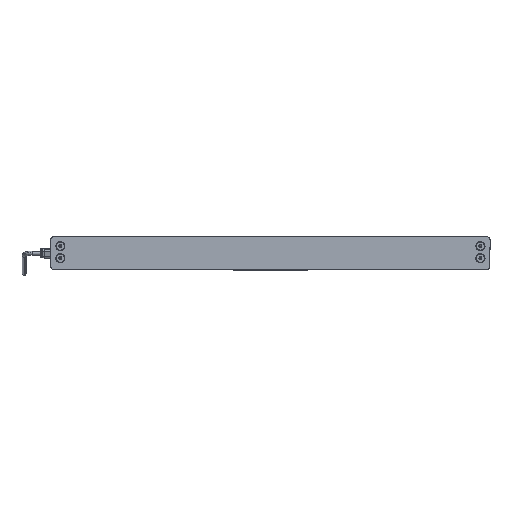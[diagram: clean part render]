
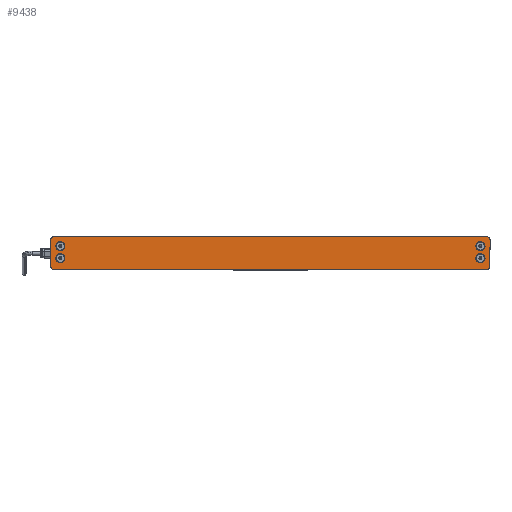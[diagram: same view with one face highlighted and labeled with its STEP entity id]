
A CAD part, left-side view. The second image highlights one B-rep face of the part: STEP entity #9438.
In plain terms, the highlighted planar face has unit normal (-1, 0, 0) as drawn and (0, 0, -1) by its records, which use the part's own axes.
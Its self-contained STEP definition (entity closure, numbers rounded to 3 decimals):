
#26 = FACE_OUTER_BOUND ( 'NONE', #8841, .T. ) ;
#54 = CARTESIAN_POINT ( 'NONE',  ( -268., -16., 0. ) ) ;
#290 = CARTESIAN_POINT ( 'NONE',  ( -264., 16., 0. ) ) ;
#333 = EDGE_CURVE ( 'NONE', #6936, #10233, #3456, .T. ) ;
#748 = DIRECTION ( 'NONE',  ( -1., 0., 0. ) ) ;
#1165 = EDGE_CURVE ( 'NONE', #11627, #17111, #24199, .T. ) ;
#1196 = CARTESIAN_POINT ( 'NONE',  ( -261.9, 8.5, 0. ) ) ;
#1259 = DIRECTION ( 'NONE',  ( -1., 0., 0. ) ) ;
#1609 = PLANE ( 'NONE',  #18530 ) ;
#1827 = VECTOR ( 'NONE', #11203, 1000. ) ;
#1895 = CARTESIAN_POINT ( 'NONE',  ( -250.7, 8.5, 0. ) ) ;
#2000 = FACE_BOUND ( 'NONE', #13365, .T. ) ;
#2031 = DIRECTION ( 'NONE',  ( -1., 0., 0. ) ) ;
#2341 = CARTESIAN_POINT ( 'NONE',  ( 264., 20., 0. ) ) ;
#2904 = CARTESIAN_POINT ( 'NONE',  ( 256.3, 8.5, 0. ) ) ;
#3022 = CIRCLE ( 'NONE', #19816, 5.6 ) ;
#3066 = EDGE_CURVE ( 'NONE', #23786, #8091, #14778, .T. ) ;
#3456 = CIRCLE ( 'NONE', #23980, 4. ) ;
#3674 = VERTEX_POINT ( 'NONE', #22330 ) ;
#3681 = EDGE_LOOP ( 'NONE', ( #19167, #22373 ) ) ;
#3752 = DIRECTION ( 'NONE',  ( 0., 0., -1. ) ) ;
#4589 = LINE ( 'NONE', #8412, #23111 ) ;
#4752 = EDGE_CURVE ( 'NONE', #12329, #17508, #9784, .T. ) ;
#4782 = DIRECTION ( 'NONE',  ( 0., 0., 1. ) ) ;
#4924 = AXIS2_PLACEMENT_3D ( 'NONE', #25531, #3752, #11911 ) ;
#5209 = EDGE_CURVE ( 'NONE', #9563, #25636, #10195, .T. ) ;
#5557 = AXIS2_PLACEMENT_3D ( 'NONE', #19387, #7411, #11644 ) ;
#5597 = EDGE_CURVE ( 'NONE', #17508, #12329, #22420, .T. ) ;
#5676 = FACE_BOUND ( 'NONE', #20257, .T. ) ;
#5909 = DIRECTION ( 'NONE',  ( -1., 0., 0. ) ) ;
#6023 = EDGE_CURVE ( 'NONE', #18768, #25149, #19123, .T. ) ;
#6090 = CARTESIAN_POINT ( 'NONE',  ( -264., 20., 0. ) ) ;
#6631 = EDGE_CURVE ( 'NONE', #25636, #25298, #16169, .T. ) ;
#6833 = DIRECTION ( 'NONE',  ( 0., 0., 1. ) ) ;
#6936 = VERTEX_POINT ( 'NONE', #9962 ) ;
#7193 = CIRCLE ( 'NONE', #25209, 4. ) ;
#7382 = LINE ( 'NONE', #23519, #1827 ) ;
#7411 = DIRECTION ( 'NONE',  ( 0., 0., -1. ) ) ;
#7544 = CARTESIAN_POINT ( 'NONE',  ( 264., -16., 0. ) ) ;
#7782 = ORIENTED_EDGE ( 'NONE', *, *, #15471, .F. ) ;
#7874 = CARTESIAN_POINT ( 'NONE',  ( 256.3, -6.3, 0. ) ) ;
#7939 = LINE ( 'NONE', #20155, #12141 ) ;
#8091 = VERTEX_POINT ( 'NONE', #22754 ) ;
#8355 = VERTEX_POINT ( 'NONE', #54 ) ;
#8412 = CARTESIAN_POINT ( 'NONE',  ( -268., -16., 0. ) ) ;
#8682 = DIRECTION ( 'NONE',  ( 0., -1., 0. ) ) ;
#8841 = EDGE_LOOP ( 'NONE', ( #9600, #13833, #23577, #7782, #17667, #12486, #20181, #19709 ) ) ;
#8962 = DIRECTION ( 'NONE',  ( -1., 0., 0. ) ) ;
#9438 = ADVANCED_FACE ( 'NONE', ( #23774, #23647, #5676, #2000, #26 ), #1609, .T. ) ;
#9538 = EDGE_CURVE ( 'NONE', #18053, #8355, #4589, .T. ) ;
#9563 = VERTEX_POINT ( 'NONE', #20502 ) ;
#9569 = ORIENTED_EDGE ( 'NONE', *, *, #1165, .F. ) ;
#9600 = ORIENTED_EDGE ( 'NONE', *, *, #5209, .F. ) ;
#9633 = EDGE_CURVE ( 'NONE', #25298, #18053, #7193, .T. ) ;
#9784 = CIRCLE ( 'NONE', #5557, 5.6 ) ;
#9962 = CARTESIAN_POINT ( 'NONE',  ( 264., -20., 0. ) ) ;
#10014 = DIRECTION ( 'NONE',  ( 0., 0., -1. ) ) ;
#10022 = CIRCLE ( 'NONE', #15039, 5.6 ) ;
#10119 = CARTESIAN_POINT ( 'NONE',  ( -256.3, -6.3, 0. ) ) ;
#10195 = CIRCLE ( 'NONE', #19431, 4. ) ;
#10233 = VERTEX_POINT ( 'NONE', #17824 ) ;
#10332 = DIRECTION ( 'NONE',  ( 0., 0., -1. ) ) ;
#10464 = EDGE_CURVE ( 'NONE', #8355, #3674, #23149, .T. ) ;
#10518 = DIRECTION ( 'NONE',  ( -1., 0., 0. ) ) ;
#10732 = CARTESIAN_POINT ( 'NONE',  ( -256.3, -6.3, 0. ) ) ;
#10749 = EDGE_CURVE ( 'NONE', #10233, #9563, #7382, .T. ) ;
#10930 = DIRECTION ( 'NONE',  ( 0., 0., -1. ) ) ;
#11000 = AXIS2_PLACEMENT_3D ( 'NONE', #10119, #24648, #16175 ) ;
#11203 = DIRECTION ( 'NONE',  ( 0., 1., 0. ) ) ;
#11299 = VECTOR ( 'NONE', #14190, 1000. ) ;
#11627 = VERTEX_POINT ( 'NONE', #18874 ) ;
#11644 = DIRECTION ( 'NONE',  ( -1., 0., 0. ) ) ;
#11911 = DIRECTION ( 'NONE',  ( -1., 0., 0. ) ) ;
#12141 = VECTOR ( 'NONE', #22102, 1000. ) ;
#12278 = ORIENTED_EDGE ( 'NONE', *, *, #23934, .F. ) ;
#12329 = VERTEX_POINT ( 'NONE', #19439 ) ;
#12486 = ORIENTED_EDGE ( 'NONE', *, *, #9538, .F. ) ;
#13222 = CARTESIAN_POINT ( 'NONE',  ( -264., -16., 0. ) ) ;
#13365 = EDGE_LOOP ( 'NONE', ( #14223, #12278 ) ) ;
#13369 = DIRECTION ( 'NONE',  ( 0., 0., -1. ) ) ;
#13482 = DIRECTION ( 'NONE',  ( 0., 0., 1. ) ) ;
#13833 = ORIENTED_EDGE ( 'NONE', *, *, #10749, .F. ) ;
#14190 = DIRECTION ( 'NONE',  ( -1., 0., 0. ) ) ;
#14223 = ORIENTED_EDGE ( 'NONE', *, *, #3066, .F. ) ;
#14337 = DIRECTION ( 'NONE',  ( 0., 0., 1. ) ) ;
#14718 = DIRECTION ( 'NONE',  ( -1., 0., 0. ) ) ;
#14778 = CIRCLE ( 'NONE', #11000, 5.6 ) ;
#14786 = AXIS2_PLACEMENT_3D ( 'NONE', #13222, #4782, #1259 ) ;
#15039 = AXIS2_PLACEMENT_3D ( 'NONE', #15342, #13369, #2031 ) ;
#15342 = CARTESIAN_POINT ( 'NONE',  ( -256.3, 8.5, 0. ) ) ;
#15398 = ORIENTED_EDGE ( 'NONE', *, *, #21074, .F. ) ;
#15471 = EDGE_CURVE ( 'NONE', #3674, #6936, #7939, .T. ) ;
#15578 = DIRECTION ( 'NONE',  ( 1., 0., 0. ) ) ;
#15904 = DIRECTION ( 'NONE',  ( 0., 0., -1. ) ) ;
#15930 = CARTESIAN_POINT ( 'NONE',  ( 264., 16., 0. ) ) ;
#16169 = LINE ( 'NONE', #24126, #11299 ) ;
#16175 = DIRECTION ( 'NONE',  ( -1., 0., 0. ) ) ;
#16735 = CARTESIAN_POINT ( 'NONE',  ( 250.7, 8.5, 0. ) ) ;
#17111 = VERTEX_POINT ( 'NONE', #16735 ) ;
#17117 = CARTESIAN_POINT ( 'NONE',  ( -256.3, 8.5, 0. ) ) ;
#17508 = VERTEX_POINT ( 'NONE', #19600 ) ;
#17513 = DIRECTION ( 'NONE',  ( 0., 0., -1. ) ) ;
#17667 = ORIENTED_EDGE ( 'NONE', *, *, #10464, .F. ) ;
#17824 = CARTESIAN_POINT ( 'NONE',  ( 268., -16., 0. ) ) ;
#17827 = ORIENTED_EDGE ( 'NONE', *, *, #6023, .F. ) ;
#18018 = DIRECTION ( 'NONE',  ( -1., 0., 0. ) ) ;
#18053 = VERTEX_POINT ( 'NONE', #18980 ) ;
#18530 = AXIS2_PLACEMENT_3D ( 'NONE', #15930, #10014, #18018 ) ;
#18768 = VERTEX_POINT ( 'NONE', #1196 ) ;
#18874 = CARTESIAN_POINT ( 'NONE',  ( 261.9, 8.5, 0. ) ) ;
#18980 = CARTESIAN_POINT ( 'NONE',  ( -268., 16., 0. ) ) ;
#19123 = CIRCLE ( 'NONE', #22446, 5.6 ) ;
#19167 = ORIENTED_EDGE ( 'NONE', *, *, #5597, .F. ) ;
#19387 = CARTESIAN_POINT ( 'NONE',  ( 256.3, -6.3, 0. ) ) ;
#19431 = AXIS2_PLACEMENT_3D ( 'NONE', #20639, #6833, #14718 ) ;
#19439 = CARTESIAN_POINT ( 'NONE',  ( 261.9, -6.3, 0. ) ) ;
#19467 = CIRCLE ( 'NONE', #23212, 5.6 ) ;
#19600 = CARTESIAN_POINT ( 'NONE',  ( 250.7, -6.3, 0. ) ) ;
#19709 = ORIENTED_EDGE ( 'NONE', *, *, #6631, .F. ) ;
#19816 = AXIS2_PLACEMENT_3D ( 'NONE', #2904, #10930, #8962 ) ;
#20155 = CARTESIAN_POINT ( 'NONE',  ( -264., -20., 0. ) ) ;
#20181 = ORIENTED_EDGE ( 'NONE', *, *, #9633, .F. ) ;
#20257 = EDGE_LOOP ( 'NONE', ( #17827, #23370 ) ) ;
#20321 = CARTESIAN_POINT ( 'NONE',  ( -261.9, -6.3, 0. ) ) ;
#20502 = CARTESIAN_POINT ( 'NONE',  ( 268., 16., 0. ) ) ;
#20639 = CARTESIAN_POINT ( 'NONE',  ( 264., 16., 0. ) ) ;
#20782 = AXIS2_PLACEMENT_3D ( 'NONE', #7874, #15904, #5909 ) ;
#21074 = EDGE_CURVE ( 'NONE', #17111, #11627, #3022, .T. ) ;
#21867 = EDGE_CURVE ( 'NONE', #25149, #18768, #10022, .T. ) ;
#22102 = DIRECTION ( 'NONE',  ( 1., 0., 0. ) ) ;
#22330 = CARTESIAN_POINT ( 'NONE',  ( -264., -20., 0. ) ) ;
#22373 = ORIENTED_EDGE ( 'NONE', *, *, #4752, .F. ) ;
#22380 = EDGE_LOOP ( 'NONE', ( #15398, #9569 ) ) ;
#22420 = CIRCLE ( 'NONE', #20782, 5.6 ) ;
#22446 = AXIS2_PLACEMENT_3D ( 'NONE', #17117, #10332, #25090 ) ;
#22754 = CARTESIAN_POINT ( 'NONE',  ( -250.7, -6.3, 0. ) ) ;
#23111 = VECTOR ( 'NONE', #8682, 1000. ) ;
#23149 = CIRCLE ( 'NONE', #14786, 4. ) ;
#23212 = AXIS2_PLACEMENT_3D ( 'NONE', #10732, #17513, #748 ) ;
#23370 = ORIENTED_EDGE ( 'NONE', *, *, #21867, .F. ) ;
#23519 = CARTESIAN_POINT ( 'NONE',  ( 268., -16., 0. ) ) ;
#23577 = ORIENTED_EDGE ( 'NONE', *, *, #333, .F. ) ;
#23647 = FACE_BOUND ( 'NONE', #3681, .T. ) ;
#23774 = FACE_BOUND ( 'NONE', #22380, .T. ) ;
#23786 = VERTEX_POINT ( 'NONE', #20321 ) ;
#23934 = EDGE_CURVE ( 'NONE', #8091, #23786, #19467, .T. ) ;
#23980 = AXIS2_PLACEMENT_3D ( 'NONE', #7544, #13482, #15578 ) ;
#24126 = CARTESIAN_POINT ( 'NONE',  ( -264., 20., 0. ) ) ;
#24199 = CIRCLE ( 'NONE', #4924, 5.6 ) ;
#24648 = DIRECTION ( 'NONE',  ( 0., 0., -1. ) ) ;
#25090 = DIRECTION ( 'NONE',  ( -1., 0., 0. ) ) ;
#25149 = VERTEX_POINT ( 'NONE', #1895 ) ;
#25209 = AXIS2_PLACEMENT_3D ( 'NONE', #290, #14337, #10518 ) ;
#25298 = VERTEX_POINT ( 'NONE', #6090 ) ;
#25531 = CARTESIAN_POINT ( 'NONE',  ( 256.3, 8.5, 0. ) ) ;
#25636 = VERTEX_POINT ( 'NONE', #2341 ) ;
